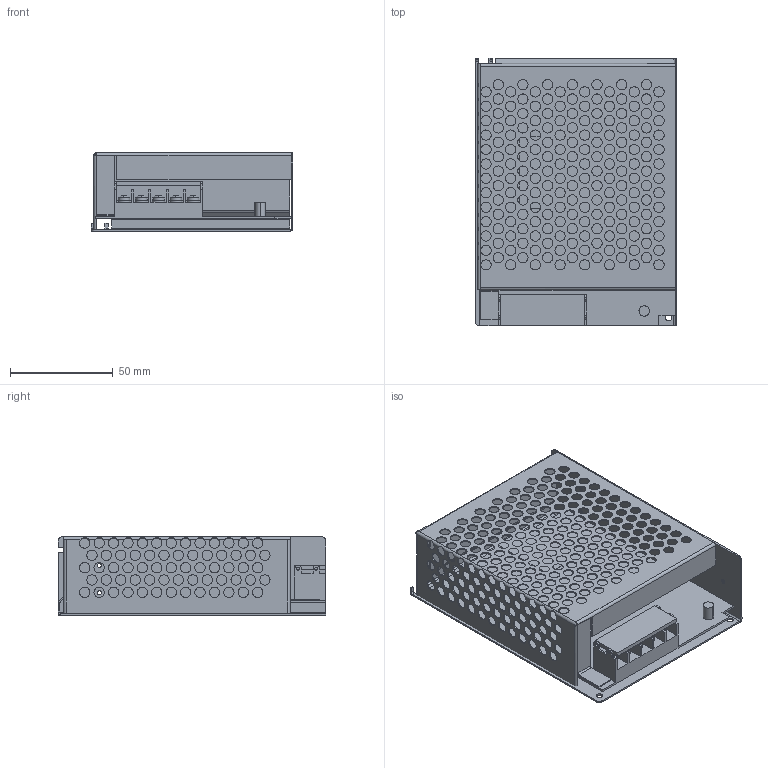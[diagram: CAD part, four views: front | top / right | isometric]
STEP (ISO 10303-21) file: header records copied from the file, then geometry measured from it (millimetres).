
FILE_DESCRIPTION (( 'STEP AP203' ), '1' );
FILE_NAME ('S - 35 - 24.STEP', '2020-02-26T14:05:37', ( '' ), ( '' ), 'SwSTEP 2.0', 'SolidWorks 2019', '' );
FILE_SCHEMA (( 'CONFIG_CONTROL_DESIGN' ));
Length unit declared in the file: millimetre
Products named in the file (1): S - 35 - 24
Bounding box: 98 x 130 x 38 mm (x, y, z)
Volume: 39193.6 mm3; surface area: 95802.6 mm2
Topology: 14 solids, 14 shells, 941 faces, 2569 edges, 1650 vertices
Faces by surface type: cylinder 633, plane 273, bspline 15, torus 10, sphere 10
Entity records: 32105 total; most frequent: CARTESIAN_POINT 6045, DIRECTION 5767, ORIENTED_EDGE 5138, EDGE_CURVE 2569, AXIS2_PLACEMENT_3D 2327, VERTEX_POINT 1650, EDGE_LOOP 1469, CIRCLE 1400
